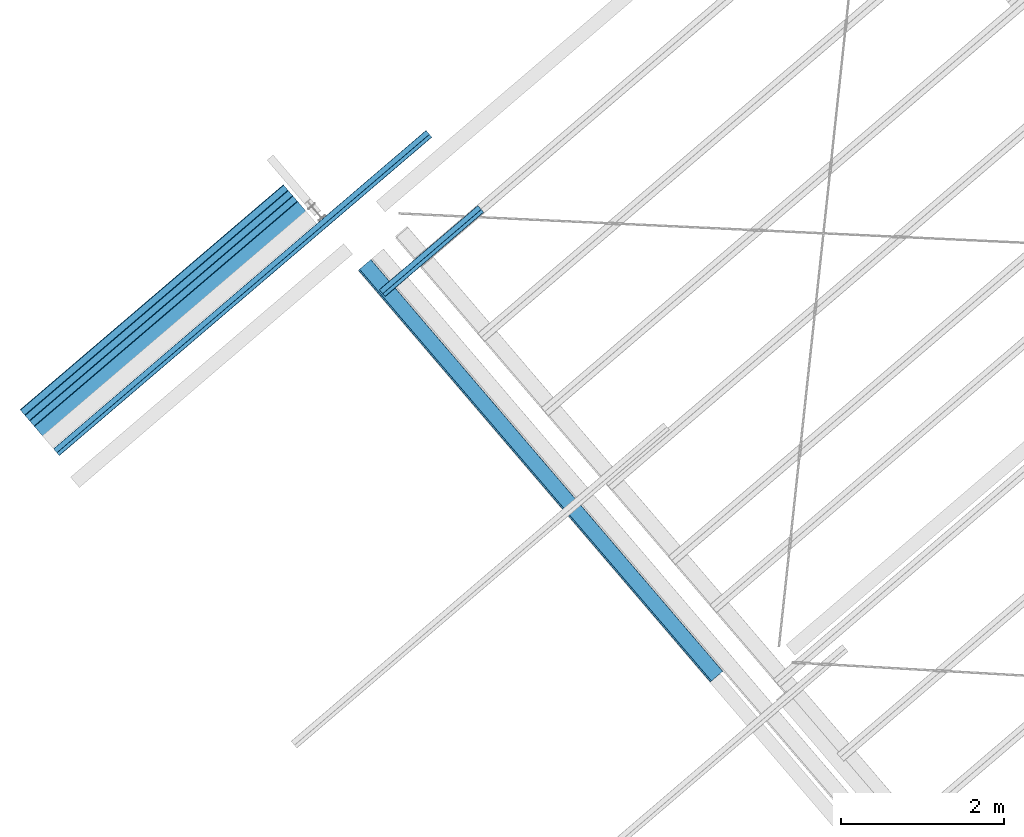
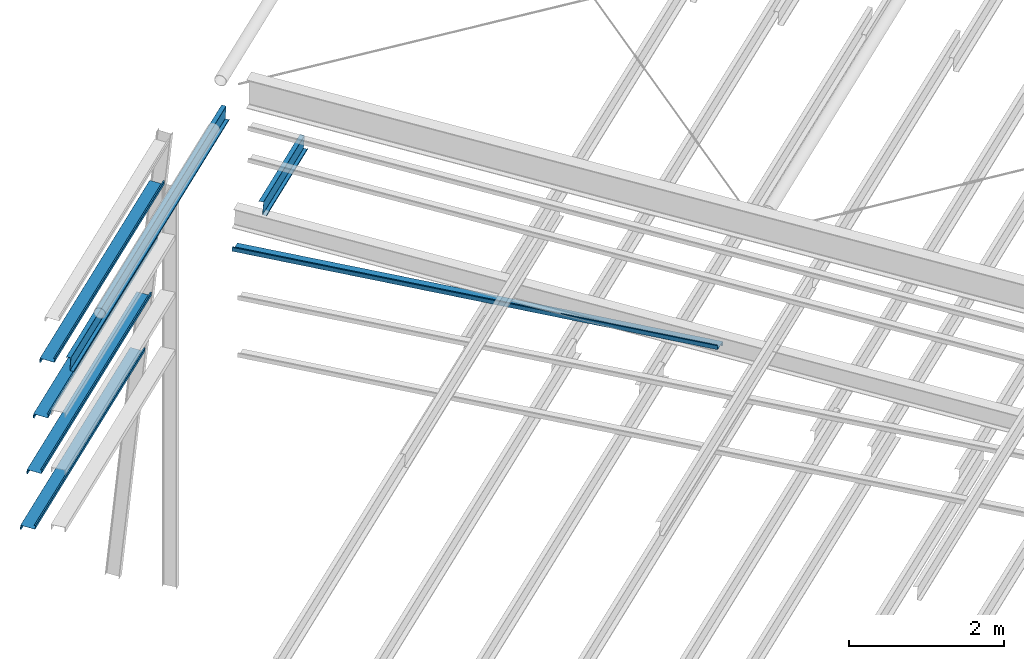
# One storey, part 7 of 25: 7 beams.
"""IFC2X3 building model written with IfcOpenShell, lengths in millimetres."""

from ifc_helpers import new_model, entity, si_unit, converted_unit, derived_unit, direction, frame, frame_2d, origin, place, context, subcontext, project, spatial, polyline, circle_curve, parameter, trimmed, segment, composite_curve, outline, extrude, material, type_object, element, save


model = new_model("IFC2X3")

# Units and contexts
model_context = context("Model", 3, precision=0.01, world=origin(), true_north=direction((6.123031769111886e-17, 1.0)))
body_context = subcontext(model_context, "Body", "Model", "MODEL_VIEW")
ifc_project = project(units=[si_unit("LENGTHUNIT", "METRE", prefix="MILLI"), si_unit("AREAUNIT", "SQUARE_METRE"), si_unit("VOLUMEUNIT", "CUBIC_METRE"), converted_unit("PLANEANGLEUNIT", "DEGREE", entity("IfcRatioMeasure", 0.017453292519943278), si_unit("PLANEANGLEUNIT", "RADIAN"), dimensions=[0, 0, 0, 0, 0, 0, 0]), si_unit("MASSUNIT", "GRAM", prefix="KILO"), derived_unit("MASSDENSITYUNIT", [(si_unit("MASSUNIT", "GRAM", prefix="KILO"), 1), (si_unit("LENGTHUNIT", "METRE"), -3)]), derived_unit("MOMENTOFINERTIAUNIT", [(si_unit("LENGTHUNIT", "METRE"), 4)]), si_unit("TIMEUNIT", "SECOND"), si_unit("FREQUENCYUNIT", "HERTZ"), si_unit("THERMODYNAMICTEMPERATUREUNIT", "DEGREE_CELSIUS"), derived_unit("THERMALTRANSMITTANCEUNIT", [(si_unit("MASSUNIT", "GRAM", prefix="KILO"), 1), (si_unit("THERMODYNAMICTEMPERATUREUNIT", "KELVIN"), -1), (si_unit("TIMEUNIT", "SECOND"), -3)]), derived_unit("VOLUMETRICFLOWRATEUNIT", [(si_unit("LENGTHUNIT", "METRE"), 3), (si_unit("TIMEUNIT", "SECOND"), -1)]), derived_unit("MASSFLOWRATEUNIT", [(si_unit("MASSUNIT", "GRAM", prefix="KILO"), 1), (si_unit("TIMEUNIT", "SECOND"), -1)]), derived_unit("ROTATIONALFREQUENCYUNIT", [(si_unit("TIMEUNIT", "SECOND"), -1)]), si_unit("ELECTRICCURRENTUNIT", "AMPERE"), si_unit("ELECTRICVOLTAGEUNIT", "VOLT"), si_unit("POWERUNIT", "WATT"), si_unit("FORCEUNIT", "NEWTON", prefix="KILO"), si_unit("ILLUMINANCEUNIT", "LUX"), si_unit("LUMINOUSFLUXUNIT", "LUMEN"), si_unit("LUMINOUSINTENSITYUNIT", "CANDELA"), derived_unit("USERDEFINED", [(si_unit("MASSUNIT", "GRAM", prefix="KILO"), -1), (si_unit("LENGTHUNIT", "METRE"), -2), (si_unit("TIMEUNIT", "SECOND"), 3), (si_unit("LUMINOUSFLUXUNIT", "LUMEN"), 1)]), derived_unit("SOUNDPOWERUNIT", [(si_unit("MASSUNIT", "GRAM", prefix="KILO"), 1), (si_unit("LENGTHUNIT", "METRE"), 2), (si_unit("TIMEUNIT", "SECOND"), -3)]), derived_unit("LINEARVELOCITYUNIT", [(si_unit("LENGTHUNIT", "METRE"), 1), (si_unit("TIMEUNIT", "SECOND"), -1)]), si_unit("PRESSUREUNIT", "PASCAL"), derived_unit("USERDEFINED", [(si_unit("LENGTHUNIT", "METRE"), -2), (si_unit("MASSUNIT", "GRAM", prefix="KILO"), 1), (si_unit("TIMEUNIT", "SECOND"), -2)]), derived_unit("LINEARFORCEUNIT", [(si_unit("MASSUNIT", "GRAM", prefix="KILO"), 1), (si_unit("LENGTHUNIT", "METRE"), 1), (si_unit("TIMEUNIT", "SECOND"), -2), (si_unit("LENGTHUNIT", "METRE"), -1)]), derived_unit("PLANARFORCEUNIT", [(si_unit("MASSUNIT", "GRAM", prefix="KILO"), 1), (si_unit("LENGTHUNIT", "METRE"), 1), (si_unit("TIMEUNIT", "SECOND"), -2), (si_unit("LENGTHUNIT", "METRE"), -2)])], contexts=[model_context])

# Site, building, storey
site_placement = place(None, frame((962.4174930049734, -6014.433753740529, 0.0), z_axis=(0.0, 0.0, 1.0), x_axis=(0.7601792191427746, 0.649713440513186, 0.0)))
site = spatial("IfcSite", under=ifc_project, at=site_placement, Name="Default", CompositionType="ELEMENT")
building_placement = place(site_placement, origin())
building = spatial("IfcBuilding", under=site, at=building_placement, CompositionType="ELEMENT")
storey_placement = place(building_placement, frame((0.0, 0.0, 9200.0)))
storey = spatial("IfcBuildingStorey", under=building, at=storey_placement, Name="TOP OF CEILING", CompositionType="ELEMENT", Elevation=9200.000000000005)

# Beams
ifc_material = material(Name="Metal - Steel - 300 MPa")
beam_type = type_object("IfcBeamType", Name="ADSK_UK_Light Gauge-Zeds-Purlin:Metsec-202Z14", PredefinedType="NOTDEFINED")
beam_1_placement = place(storey_placement, frame((155605.96020471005, 3803.938202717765, 2870.0), z_axis=(0.0, 0.0, 1.0), x_axis=(-1.0, 0.0, 0.0)))
element("IfcBeam", 1, at=beam_1_placement, inside=storey, type_object=beam_type, material=ifc_material, Name="ADSK_UK_Light Gauge-Zeds-Purlin:Metsec-202Z14", ObjectType="ADSK_UK_Light Gauge-Zeds-Purlin:Metsec-202Z14", context=body_context, shape_type="SweptSolid", body=[
    extrude(outline(composite_curve([segment(trimmed(circle_curve(frame_2d((98.40000000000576, 58.0), x_axis=(1.0, 0.0)), 2.800000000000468), [parameter(0.0)], [parameter(89.99999999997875)], True, "PARAMETER"), True, "CONTINUOUS"), segment(polyline([(98.40000000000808, 60.79999999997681), (80.20000000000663, 60.79999999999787)]), True, "CONTINUOUS"), segment(polyline([(80.20000000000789, 60.799999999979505), (80.20000000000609, 59.39999999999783)]), True, "CONTINUOUS"), segment(polyline([(80.20000000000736, 59.39999999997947), (98.40000000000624, 59.39999999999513)]), True, "CONTINUOUS"), segment(trimmed(circle_curve(frame_2d((98.40000000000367, 58.0), x_axis=(0.0, 1.0)), 1.4000000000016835), [parameter(270.00000000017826)], [parameter(0.0)], True, "PARAMETER"), False, "CONTINUOUS"), segment(polyline([(99.80000000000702, 58.0), (99.79999999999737, 3.5999999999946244)]), True, "CONTINUOUS"), segment(trimmed(circle_curve(frame_2d((98.3999999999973, 3.5999999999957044), x_axis=(1.0, 0.0)), 1.4000000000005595), [parameter(270.0000000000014)], [parameter(0.0)], True, "PARAMETER"), False, "CONTINUOUS"), segment(polyline([(98.39999999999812, 2.1999999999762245), (-98.0, 2.2000000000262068)]), True, "CONTINUOUS"), segment(trimmed(circle_curve(frame_2d((-98.0, -0.5999999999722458), x_axis=(0.0, 1.0)), 2.7999999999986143), [parameter(0.0)], [parameter(90.00000000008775)], True, "PARAMETER"), True, "CONTINUOUS"), segment(polyline([(-100.79999999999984, -0.5999999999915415), (-100.80000000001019, -60.0)]), True, "CONTINUOUS"), segment(trimmed(circle_curve(frame_2d((-98.0, -60.0), x_axis=(-1.0, 0.0)), 2.8000000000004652), [parameter(0.0)], [parameter(89.99999999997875)], True, "PARAMETER"), True, "CONTINUOUS"), segment(polyline([(-98.0, -62.799999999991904), (-81.80000000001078, -62.799999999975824)]), True, "CONTINUOUS"), segment(polyline([(-81.8000000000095, -62.7999999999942), (-81.80000000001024, -61.3999999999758)]), True, "CONTINUOUS"), segment(polyline([(-81.80000000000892, -61.3999999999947), (-98.0, -61.3999999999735)]), True, "CONTINUOUS"), segment(trimmed(circle_curve(frame_2d((-98.0, -60.0), x_axis=(0.0, -1.0)), 1.4000000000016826), [parameter(270.00000000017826)], [parameter(0.0)], True, "PARAMETER"), False, "CONTINUOUS"), segment(polyline([(-99.40000000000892, -60.0), (-99.40000000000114, -0.5999999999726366)]), True, "CONTINUOUS"), segment(trimmed(circle_curve(frame_2d((-98.0, -0.5999999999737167), x_axis=(-1.0, 0.0)), 1.40000000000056), [parameter(270.0000000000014)], [parameter(0.0)], True, "PARAMETER"), False, "CONTINUOUS"), segment(polyline([(-98.0, 0.8000000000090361), (98.39999999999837, 0.7999999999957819)]), True, "CONTINUOUS"), segment(trimmed(circle_curve(frame_2d((98.39999999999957, 3.599999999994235), x_axis=(0.0, -1.0)), 2.799999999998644), [parameter(0.0)], [parameter(90.00000000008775)], True, "PARAMETER"), True, "CONTINUOUS"), segment(polyline([(101.19999999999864, 3.599999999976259), (101.20000000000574, 58.0)]), True, "CONTINUOUS")], self_intersect=False)), frame((0.0, -7.694663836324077, -100.50831880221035), z_axis=(1.0, 0.0, 0.0), x_axis=(0.0, -0.06940825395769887, -0.9975883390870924)), (0.0, 0.0, 1.0), 6000.000000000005),
])
beam_2_placement = place(storey_placement, frame((155490.82110097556, 2692.5719178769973, 2742.221238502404), z_axis=(0.0, 0.0, 1.0), x_axis=(-1.0, 0.0, 0.0)))
element("IfcBeam", 2, at=beam_2_placement, inside=storey, type_object=beam_type, material=ifc_material, Name="ADSK_UK_Light Gauge-Zeds-Purlin:Metsec-202Z14", ObjectType="ADSK_UK_Light Gauge-Zeds-Purlin:Metsec-202Z14", context=body_context, shape_type="SweptSolid", body=[
    extrude(outline(composite_curve([segment(trimmed(circle_curve(frame_2d((58.0, 98.39999999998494), x_axis=(1.0, 0.0)), 2.8000000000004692), [parameter(0.0)], [parameter(89.99999999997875)], True, "PARAMETER"), True, "CONTINUOUS"), segment(polyline([(58.0, 101.19999999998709), (3.6000000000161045, 101.19999999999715)]), True, "CONTINUOUS"), segment(trimmed(circle_curve(frame_2d((3.600000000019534, 98.39999999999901), x_axis=(0.0, 1.0)), 2.799999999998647), [parameter(0.0)], [parameter(90.00000000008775)], True, "PARAMETER"), True, "CONTINUOUS"), segment(polyline([(0.8000000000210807, 98.39999999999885), (0.7999999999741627, -98.0)]), True, "CONTINUOUS"), segment(trimmed(circle_curve(frame_2d((-0.6000000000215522, -98.0), x_axis=(1.0, 0.0)), 1.40000000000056), [parameter(270.0000000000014)], [parameter(0.0)], True, "PARAMETER"), False, "CONTINUOUS"), segment(polyline([(-0.6000000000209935, -99.40000000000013), (-60.0, -99.39999999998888)]), True, "CONTINUOUS"), segment(trimmed(circle_curve(frame_2d((-60.0, -98.0), x_axis=(0.0, -1.0)), 1.4000000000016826), [parameter(270.00000000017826)], [parameter(0.0)], True, "PARAMETER"), False, "CONTINUOUS"), segment(polyline([(-61.400000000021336, -98.0), (-61.400000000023, -81.79999999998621)]), True, "CONTINUOUS"), segment(polyline([(-61.4000000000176, -81.79999999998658), (-62.80000000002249, -81.79999999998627)]), True, "CONTINUOUS"), segment(polyline([(-62.80000000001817, -81.79999999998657), (-62.80000000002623, -98.0)]), True, "CONTINUOUS"), segment(trimmed(circle_curve(frame_2d((-60.0, -98.0), x_axis=(-1.0, 0.0)), 2.800000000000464), [parameter(0.0)], [parameter(89.99999999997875)], True, "PARAMETER"), True, "CONTINUOUS"), segment(polyline([(-60.0, -100.79999999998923), (-0.6000000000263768, -100.79999999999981)]), True, "CONTINUOUS"), segment(trimmed(circle_curve(frame_2d((-0.6000000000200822, -98.0), x_axis=(0.0, -1.0)), 2.7999999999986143), [parameter(0.0)], [parameter(90.00000000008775)], True, "PARAMETER"), True, "CONTINUOUS"), segment(polyline([(2.1999999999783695, -98.0), (2.2000000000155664, 98.3999999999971)]), True, "CONTINUOUS"), segment(trimmed(circle_curve(frame_2d((3.600000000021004, 98.39999999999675), x_axis=(-1.0, 0.0)), 1.4000000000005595), [parameter(270.0000000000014)], [parameter(0.0)], True, "PARAMETER"), False, "CONTINUOUS"), segment(polyline([(3.6000000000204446, 99.79999999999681), (58.0, 99.79999999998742)]), True, "CONTINUOUS"), segment(trimmed(circle_curve(frame_2d((58.0, 98.39999999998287), x_axis=(0.0, 1.0)), 1.4000000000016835), [parameter(270.00000000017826)], [parameter(0.0)], True, "PARAMETER"), False, "CONTINUOUS"), segment(polyline([(59.400000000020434, 98.39999999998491), (59.400000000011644, 80.19999999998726)]), True, "CONTINUOUS"), segment(polyline([(59.40000000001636, 80.19999999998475), (60.800000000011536, 80.1999999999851)]), True, "CONTINUOUS"), segment(polyline([(60.800000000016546, 80.19999999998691), (60.80000000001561, 98.3999999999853)]), True, "CONTINUOUS")], self_intersect=False)), frame((0.0, -7.6946638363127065, -100.50831880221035), z_axis=(-1.0, 0.0, 0.0), x_axis=(0.0, 0.9975883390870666, -0.06940825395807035)), (0.0, 0.0, -1.0), 1587.0000000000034),
])
beam_3_placement = place(storey_placement, frame((153845.96020471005, 4492.474434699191, 78.67880358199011), z_axis=(0.0, 0.0, 1.0), x_axis=(-1.0, 0.0, 0.0)))
element("IfcBeam", 3, at=beam_3_placement, inside=storey, type_object=beam_type, material=ifc_material, Name="ADSK_UK_Light Gauge-Zeds-Purlin:Metsec-202Z14", ObjectType="ADSK_UK_Light Gauge-Zeds-Purlin:Metsec-202Z14", context=body_context, shape_type="SweptSolid", body=[
    extrude(outline(composite_curve([segment(trimmed(circle_curve(frame_2d((98.40000000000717, 58.0), x_axis=(1.0, 0.0)), 2.7999999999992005), [parameter(0.0)], [parameter(90.00000000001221)], True, "PARAMETER"), True, "CONTINUOUS"), segment(polyline([(98.39999999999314, 60.800000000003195), (80.20000000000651, 60.8000000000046)]), True, "CONTINUOUS"), segment(polyline([(80.1999999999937, 60.80000000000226), (80.20000000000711, 59.400000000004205)]), True, "CONTINUOUS"), segment(polyline([(80.19999999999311, 59.40000000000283), (98.40000000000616, 59.40000000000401)]), True, "CONTINUOUS"), segment(trimmed(circle_curve(frame_2d((98.40000000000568, 58.0), x_axis=(0.0, 1.0)), 1.4000000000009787), [parameter(270.000000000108)], [parameter(0.0)], True, "PARAMETER"), False, "CONTINUOUS"), segment(polyline([(99.79999999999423, 58.0), (99.80000000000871, 3.600000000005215)]), True, "CONTINUOUS"), segment(trimmed(circle_curve(frame_2d((98.4000000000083, 3.600000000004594), x_axis=(1.0, 0.0)), 1.4000000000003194), [parameter(269.9999999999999)], [parameter(0.0)], True, "PARAMETER"), False, "CONTINUOUS"), segment(polyline([(98.399999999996, 2.200000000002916), (-98.0, 2.1999999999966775)]), True, "CONTINUOUS"), segment(trimmed(circle_curve(frame_2d((-98.0, -0.6000000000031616), x_axis=(0.0, 1.0)), 2.7999999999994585), [parameter(0.0)], [parameter(90.00000000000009)], True, "PARAMETER"), True, "CONTINUOUS"), segment(polyline([(-100.80000000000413, -0.6000000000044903), (-100.79999999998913, -60.0)]), True, "CONTINUOUS"), segment(trimmed(circle_curve(frame_2d((-98.0, -60.0), x_axis=(-1.0, 0.0)), 2.7999999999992), [parameter(0.0)], [parameter(90.00000000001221)], True, "PARAMETER"), True, "CONTINUOUS"), segment(polyline([(-98.0, -62.80000000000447), (-81.79999999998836, -62.80000000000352)]), True, "CONTINUOUS"), segment(polyline([(-81.80000000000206, -62.8000000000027), (-81.79999999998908, -61.400000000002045)]), True, "CONTINUOUS"), segment(polyline([(-81.80000000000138, -61.40000000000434), (-98.0, -61.400000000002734)]), True, "CONTINUOUS"), segment(trimmed(circle_curve(frame_2d((-98.0, -60.0), x_axis=(0.0, -1.0)), 1.4000000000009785), [parameter(270.000000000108)], [parameter(0.0)], True, "PARAMETER"), False, "CONTINUOUS"), segment(polyline([(-99.4000000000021, -60.0), (-99.39999999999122, -0.6000000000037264)]), True, "CONTINUOUS"), segment(trimmed(circle_curve(frame_2d((-98.0, -0.6000000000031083), x_axis=(-1.0, 0.0)), 1.4000000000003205), [parameter(269.9999999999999)], [parameter(0.0)], True, "PARAMETER"), False, "CONTINUOUS"), segment(polyline([(-98.0, 0.7999999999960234), (98.40000000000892, 0.8000000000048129)]), True, "CONTINUOUS"), segment(trimmed(circle_curve(frame_2d((98.40000000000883, 3.6000000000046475), x_axis=(0.0, -1.0)), 2.799999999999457), [parameter(0.0)], [parameter(90.00000000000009)], True, "PARAMETER"), True, "CONTINUOUS"), segment(polyline([(101.19999999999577, 3.600000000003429), (101.20000000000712, 58.0)]), True, "CONTINUOUS")], self_intersect=False)), frame((0.0, 100.24508507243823, -10.585505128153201), z_axis=(1.0, 0.0, 0.0), x_axis=(0.0, 0.9951761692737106, -0.09810398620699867)), (0.0, 0.0, 1.0), 4240.000000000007),
])
beam_4_placement = place(storey_placement, frame((153845.96020471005, 4404.221084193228, 974.3413215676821), z_axis=(0.0, 0.0, 1.0), x_axis=(-1.0, 0.0, 0.0)))
element("IfcBeam", 4, at=beam_4_placement, inside=storey, type_object=beam_type, material=ifc_material, Name="ADSK_UK_Light Gauge-Zeds-Purlin:Metsec-202Z14", ObjectType="ADSK_UK_Light Gauge-Zeds-Purlin:Metsec-202Z14", context=body_context, shape_type="SweptSolid", body=[
    extrude(outline(composite_curve([segment(trimmed(circle_curve(frame_2d((98.40000000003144, 58.0), x_axis=(1.0, 0.0)), 2.8000000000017), [parameter(0.0)], [parameter(89.99999999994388)], True, "PARAMETER"), True, "CONTINUOUS"), segment(polyline([(98.40000000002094, 60.79999999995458), (80.20000000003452, 60.79999999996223)]), True, "CONTINUOUS"), segment(polyline([(80.20000000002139, 60.799999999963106), (80.20000000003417, 59.39999999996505)]), True, "CONTINUOUS"), segment(polyline([(80.20000000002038, 59.39999999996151), (98.40000000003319, 59.39999999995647)]), True, "CONTINUOUS"), segment(trimmed(circle_curve(frame_2d((98.40000000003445, 58.0), x_axis=(0.0, 1.0)), 1.3999999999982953), [parameter(269.9999999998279)], [parameter(0.0)], True, "PARAMETER"), False, "CONTINUOUS"), segment(polyline([(99.80000000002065, 58.0), (99.80000000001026, 3.599999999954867)]), True, "CONTINUOUS"), segment(trimmed(circle_curve(frame_2d((98.40000000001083, 3.59999999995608), x_axis=(1.0, 0.0)), 1.399999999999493), [parameter(269.9999999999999)], [parameter(0.0)], True, "PARAMETER"), False, "CONTINUOUS"), segment(polyline([(98.3999999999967, 2.199999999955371), (-98.0, 2.2000000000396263)]), True, "CONTINUOUS"), segment(trimmed(circle_curve(frame_2d((-98.0, -0.599999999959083), x_axis=(0.0, 1.0)), 2.800000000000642), [parameter(0.0)], [parameter(90.00000000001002)], True, "PARAMETER"), True, "CONTINUOUS"), segment(polyline([(-100.80000000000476, -0.5999999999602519), (-100.80000000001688, -60.0)]), True, "CONTINUOUS"), segment(trimmed(circle_curve(frame_2d((-98.0, -60.0), x_axis=(-1.0, 0.0)), 2.8000000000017), [parameter(0.0)], [parameter(89.99999999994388)], True, "PARAMETER"), True, "CONTINUOUS"), segment(polyline([(-98.0, -62.79999999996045), (-81.80000000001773, -62.799999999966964)]), True, "CONTINUOUS"), segment(polyline([(-81.80000000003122, -62.79999999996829), (-81.80000000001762, -61.39999999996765)]), True, "CONTINUOUS"), segment(polyline([(-81.80000000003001, -61.39999999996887), (-98.0, -61.39999999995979)]), True, "CONTINUOUS"), segment(trimmed(circle_curve(frame_2d((-98.0, -60.0), x_axis=(0.0, -1.0)), 1.3999999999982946), [parameter(269.9999999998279)], [parameter(0.0)], True, "PARAMETER"), False, "CONTINUOUS"), segment(polyline([(-99.40000000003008, -60.0), (-99.39999999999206, -0.5999999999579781)]), True, "CONTINUOUS"), segment(trimmed(circle_curve(frame_2d((-98.0, -0.5999999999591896), x_axis=(-1.0, 0.0)), 1.3999999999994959), [parameter(269.9999999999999)], [parameter(0.0)], True, "PARAMETER"), False, "CONTINUOUS"), segment(polyline([(-98.0, 0.8000000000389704), (98.40000000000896, 0.7999999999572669)]), True, "CONTINUOUS"), segment(trimmed(circle_curve(frame_2d((98.40000000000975, 3.5999999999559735), x_axis=(0.0, -1.0)), 2.8000000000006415), [parameter(0.0)], [parameter(90.00000000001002)], True, "PARAMETER"), True, "CONTINUOUS"), segment(polyline([(101.1999999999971, 3.5999999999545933), (101.20000000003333, 58.0)]), True, "CONTINUOUS")], self_intersect=False)), frame((0.0, 100.24508507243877, -10.58550512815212), z_axis=(1.0, 0.0, 0.0), x_axis=(0.0, 0.9951761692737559, -0.09810398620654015)), (0.0, 0.0, 1.0), 4240.000000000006),
])
beam_5_placement = place(storey_placement, frame((153845.96020471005, 4315.967733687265, 1870.0038395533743), z_axis=(0.0, 0.0, 1.0), x_axis=(-1.0, 0.0, 0.0)))
element("IfcBeam", 5, at=beam_5_placement, inside=storey, type_object=beam_type, material=ifc_material, Name="ADSK_UK_Light Gauge-Zeds-Purlin:Metsec-202Z14", ObjectType="ADSK_UK_Light Gauge-Zeds-Purlin:Metsec-202Z14", context=body_context, shape_type="SweptSolid", body=[
    extrude(outline(composite_curve([segment(trimmed(circle_curve(frame_2d((98.40000000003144, 58.0), x_axis=(1.0, 0.0)), 2.8000000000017), [parameter(0.0)], [parameter(89.99999999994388)], True, "PARAMETER"), True, "CONTINUOUS"), segment(polyline([(98.40000000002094, 60.79999999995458), (80.20000000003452, 60.79999999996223)]), True, "CONTINUOUS"), segment(polyline([(80.20000000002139, 60.799999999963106), (80.20000000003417, 59.39999999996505)]), True, "CONTINUOUS"), segment(polyline([(80.20000000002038, 59.39999999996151), (98.40000000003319, 59.39999999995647)]), True, "CONTINUOUS"), segment(trimmed(circle_curve(frame_2d((98.40000000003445, 58.0), x_axis=(0.0, 1.0)), 1.3999999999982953), [parameter(269.9999999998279)], [parameter(0.0)], True, "PARAMETER"), False, "CONTINUOUS"), segment(polyline([(99.80000000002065, 58.0), (99.80000000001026, 3.599999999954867)]), True, "CONTINUOUS"), segment(trimmed(circle_curve(frame_2d((98.40000000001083, 3.59999999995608), x_axis=(1.0, 0.0)), 1.399999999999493), [parameter(269.9999999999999)], [parameter(0.0)], True, "PARAMETER"), False, "CONTINUOUS"), segment(polyline([(98.3999999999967, 2.199999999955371), (-98.0, 2.2000000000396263)]), True, "CONTINUOUS"), segment(trimmed(circle_curve(frame_2d((-98.0, -0.5999999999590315), x_axis=(0.0, 1.0)), 2.800000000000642), [parameter(0.0)], [parameter(90.00000000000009)], True, "PARAMETER"), True, "CONTINUOUS"), segment(polyline([(-100.80000000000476, -0.5999999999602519), (-100.80000000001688, -60.0)]), True, "CONTINUOUS"), segment(trimmed(circle_curve(frame_2d((-98.0, -60.0), x_axis=(-1.0, 0.0)), 2.8000000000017), [parameter(0.0)], [parameter(89.99999999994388)], True, "PARAMETER"), True, "CONTINUOUS"), segment(polyline([(-98.0, -62.79999999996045), (-81.80000000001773, -62.799999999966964)]), True, "CONTINUOUS"), segment(polyline([(-81.80000000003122, -62.79999999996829), (-81.80000000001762, -61.39999999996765)]), True, "CONTINUOUS"), segment(polyline([(-81.80000000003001, -61.39999999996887), (-98.0, -61.39999999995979)]), True, "CONTINUOUS"), segment(trimmed(circle_curve(frame_2d((-98.0, -60.0), x_axis=(0.0, -1.0)), 1.3999999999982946), [parameter(269.9999999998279)], [parameter(0.0)], True, "PARAMETER"), False, "CONTINUOUS"), segment(polyline([(-99.40000000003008, -60.0), (-99.39999999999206, -0.5999999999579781)]), True, "CONTINUOUS"), segment(trimmed(circle_curve(frame_2d((-98.0, -0.5999999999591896), x_axis=(-1.0, 0.0)), 1.3999999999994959), [parameter(269.9999999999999)], [parameter(0.0)], True, "PARAMETER"), False, "CONTINUOUS"), segment(polyline([(-98.0, 0.8000000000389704), (98.40000000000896, 0.7999999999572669)]), True, "CONTINUOUS"), segment(trimmed(circle_curve(frame_2d((98.40000000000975, 3.5999999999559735), x_axis=(0.0, -1.0)), 2.8000000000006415), [parameter(0.0)], [parameter(90.00000000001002)], True, "PARAMETER"), True, "CONTINUOUS"), segment(polyline([(101.1999999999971, 3.5999999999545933), (101.20000000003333, 58.0)]), True, "CONTINUOUS")], self_intersect=False)), frame((0.0, 100.24508507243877, -10.58550512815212), z_axis=(1.0, 0.0, 0.0), x_axis=(0.0, 0.9951761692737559, -0.09810398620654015)), (0.0, 0.0, 1.0), 4240.000000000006),
])
beam_6_placement = place(storey_placement, frame((153845.96020471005, 4227.714383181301, 2765.666357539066), z_axis=(0.0, 0.0, 1.0), x_axis=(-1.0, 0.0, 0.0)))
element("IfcBeam", 6, at=beam_6_placement, inside=storey, type_object=beam_type, material=ifc_material, Name="ADSK_UK_Light Gauge-Zeds-Purlin:Metsec-202Z14", ObjectType="ADSK_UK_Light Gauge-Zeds-Purlin:Metsec-202Z14", context=body_context, shape_type="SweptSolid", body=[
    extrude(outline(composite_curve([segment(trimmed(circle_curve(frame_2d((98.40000000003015, 58.0), x_axis=(1.0, 0.0)), 2.8000000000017), [parameter(0.0)], [parameter(89.99999999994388)], True, "PARAMETER"), True, "CONTINUOUS"), segment(polyline([(98.40000000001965, 60.799999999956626), (80.20000000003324, 60.79999999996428)]), True, "CONTINUOUS"), segment(polyline([(80.2000000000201, 60.79999999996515), (80.20000000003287, 59.39999999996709)]), True, "CONTINUOUS"), segment(polyline([(80.20000000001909, 59.39999999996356), (98.40000000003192, 59.39999999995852)]), True, "CONTINUOUS"), segment(trimmed(circle_curve(frame_2d((98.40000000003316, 58.0), x_axis=(0.0, 1.0)), 1.3999999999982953), [parameter(269.9999999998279)], [parameter(0.0)], True, "PARAMETER"), False, "CONTINUOUS"), segment(polyline([(99.80000000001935, 58.0), (99.80000000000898, 3.5999999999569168)]), True, "CONTINUOUS"), segment(trimmed(circle_curve(frame_2d((98.40000000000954, 3.5999999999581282), x_axis=(1.0, 0.0)), 1.399999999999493), [parameter(269.9999999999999)], [parameter(0.0)], True, "PARAMETER"), False, "CONTINUOUS"), segment(polyline([(98.3999999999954, 2.199999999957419), (-98.0, 2.2000000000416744)]), True, "CONTINUOUS"), segment(trimmed(circle_curve(frame_2d((-98.0, -0.5999999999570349), x_axis=(0.0, 1.0)), 2.800000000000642), [parameter(0.0)], [parameter(90.00000000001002)], True, "PARAMETER"), True, "CONTINUOUS"), segment(polyline([(-100.80000000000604, -0.599999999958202), (-100.80000000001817, -60.0)]), True, "CONTINUOUS"), segment(trimmed(circle_curve(frame_2d((-98.0, -60.0), x_axis=(-1.0, 0.0)), 2.8000000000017), [parameter(0.0)], [parameter(89.99999999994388)], True, "PARAMETER"), True, "CONTINUOUS"), segment(polyline([(-98.0, -62.7999999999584), (-81.80000000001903, -62.799999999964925)]), True, "CONTINUOUS"), segment(polyline([(-81.8000000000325, -62.79999999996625), (-81.80000000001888, -61.39999999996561)]), True, "CONTINUOUS"), segment(polyline([(-81.80000000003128, -61.39999999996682), (-98.0, -61.39999999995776)]), True, "CONTINUOUS"), segment(trimmed(circle_curve(frame_2d((-98.0, -60.0), x_axis=(0.0, -1.0)), 1.3999999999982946), [parameter(269.9999999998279)], [parameter(0.0)], True, "PARAMETER"), False, "CONTINUOUS"), segment(polyline([(-99.40000000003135, -60.0), (-99.39999999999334, -0.59999999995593)]), True, "CONTINUOUS"), segment(trimmed(circle_curve(frame_2d((-98.0, -0.5999999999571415), x_axis=(-1.0, 0.0)), 1.3999999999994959), [parameter(269.9999999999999)], [parameter(0.0)], True, "PARAMETER"), False, "CONTINUOUS"), segment(polyline([(-98.0, 0.8000000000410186), (98.40000000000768, 0.799999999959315)]), True, "CONTINUOUS"), segment(trimmed(circle_curve(frame_2d((98.40000000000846, 3.5999999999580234), x_axis=(0.0, -1.0)), 2.8000000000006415), [parameter(0.0)], [parameter(90.00000000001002)], True, "PARAMETER"), True, "CONTINUOUS"), segment(polyline([(101.19999999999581, 3.599999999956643), (101.20000000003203, 58.0)]), True, "CONTINUOUS")], self_intersect=False)), frame((0.0, 100.24508507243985, -10.585505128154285), z_axis=(1.0, 0.0, 0.0), x_axis=(0.0, 0.9951761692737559, -0.09810398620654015)), (0.0, 0.0, 1.0), 4240.000000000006),
])
beam_7_placement = place(storey_placement, frame((153863.9602047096, -3527.428082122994, 1900.0), z_axis=(0.0, 0.0, 1.0), x_axis=(0.0, 1.0, 0.0)))
element("IfcBeam", 7, at=beam_7_placement, inside=storey, type_object=beam_type, material=ifc_material, Name="ADSK_UK_Light Gauge-Zeds-Purlin:Metsec-202Z14", ObjectType="ADSK_UK_Light Gauge-Zeds-Purlin:Metsec-202Z14", context=body_context, shape_type="SweptSolid", body=[
    extrude(outline(composite_curve([segment(polyline([(3.600000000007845, -101.19999999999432), (58.0, -101.19999999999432)]), True, "CONTINUOUS"), segment(trimmed(circle_curve(frame_2d((58.0, -98.39999999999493), x_axis=(0.0, -1.0)), 2.800000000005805), [parameter(0.0)], [parameter(89.99999999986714)], True, "PARAMETER"), True, "CONTINUOUS"), segment(polyline([(60.800000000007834, -98.39999999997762), (60.79999999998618, -80.19999999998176)]), True, "CONTINUOUS"), segment(polyline([(60.800000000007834, -80.1999999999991), (59.39999999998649, -80.1999999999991)]), True, "CONTINUOUS"), segment(polyline([(59.40000000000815, -80.19999999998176), (59.39999999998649, -98.39999999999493)]), True, "CONTINUOUS"), segment(trimmed(circle_curve(frame_2d((58.0, -98.39999999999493), x_axis=(1.0, 0.0)), 1.3999999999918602), [parameter(269.99999999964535)], [parameter(0.0)], True, "PARAMETER"), False, "CONTINUOUS"), segment(polyline([(58.0, -99.79999999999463), (3.5999999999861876, -99.79999999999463)]), True, "CONTINUOUS"), segment(trimmed(circle_curve(frame_2d((3.5999999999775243, -98.39999999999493), x_axis=(0.0, -1.0)), 1.399999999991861), [parameter(269.99999999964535)], [parameter(0.0)], True, "PARAMETER"), False, "CONTINUOUS"), segment(polyline([(2.2000000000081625, -98.39999999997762), (2.199999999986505, 98.0)]), True, "CONTINUOUS"), segment(trimmed(circle_curve(frame_2d((-0.6000000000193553, 98.0), x_axis=(1.0, 0.0)), 2.8000000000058), [parameter(0.0)], [parameter(89.99999999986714)], True, "PARAMETER"), True, "CONTINUOUS"), segment(polyline([(-0.5999999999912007, 100.80000000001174), (-60.0, 100.80000000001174)]), True, "CONTINUOUS"), segment(trimmed(circle_curve(frame_2d((-60.0, 98.0), x_axis=(0.0, 1.0)), 2.8000000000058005), [parameter(0.0)], [parameter(89.99999999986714)], True, "PARAMETER"), True, "CONTINUOUS"), segment(polyline([(-62.799999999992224, 98.0), (-62.80000000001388, 81.79999999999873)]), True, "CONTINUOUS"), segment(polyline([(-62.799999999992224, 81.80000000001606), (-61.4000000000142, 81.80000000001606)]), True, "CONTINUOUS"), segment(polyline([(-61.399999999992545, 81.80000000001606), (-61.4000000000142, 98.0)]), True, "CONTINUOUS"), segment(trimmed(circle_curve(frame_2d((-60.0, 98.0), x_axis=(-1.0, 0.0)), 1.3999999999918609), [parameter(269.99999999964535)], [parameter(0.0)], True, "PARAMETER"), False, "CONTINUOUS"), segment(polyline([(-60.0, 99.40000000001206), (-0.600000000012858, 99.40000000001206)]), True, "CONTINUOUS"), segment(trimmed(circle_curve(frame_2d((-0.600000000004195, 98.0), x_axis=(0.0, 1.0)), 1.399999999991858), [parameter(269.99999999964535)], [parameter(0.0)], True, "PARAMETER"), False, "CONTINUOUS"), segment(polyline([(0.800000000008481, 98.0), (0.7999999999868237, -98.39999999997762)]), True, "CONTINUOUS"), segment(trimmed(circle_curve(frame_2d((3.5999999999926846, -98.39999999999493), x_axis=(-1.0, 0.0)), 2.8000000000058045), [parameter(0.0)], [parameter(89.99999999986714)], True, "PARAMETER"), True, "CONTINUOUS")], self_intersect=False)), frame((0.0, -100.79999999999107, 0.6999999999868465), z_axis=(1.0, 0.0, 0.0), x_axis=(0.0, 0.0, -1.0)), (0.0, 0.0, 1.0), 6632.000000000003),
])

save(model, "model.ifc")
